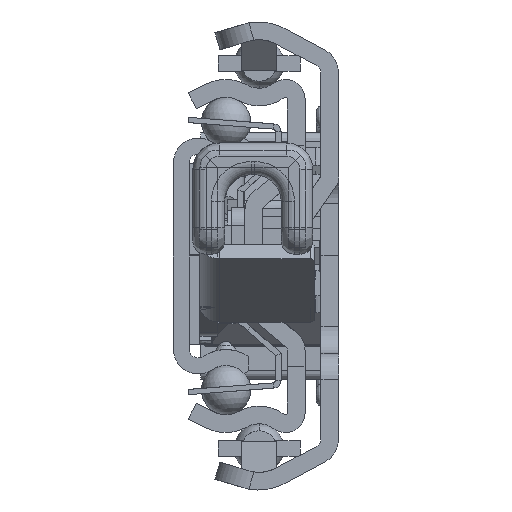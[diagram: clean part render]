
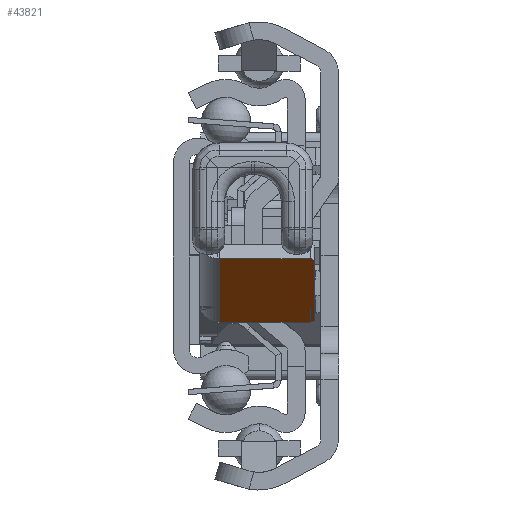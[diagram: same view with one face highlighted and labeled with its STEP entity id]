
A CAD part, left-side view. The second image highlights one B-rep face of the part: STEP entity #43821.
In plain terms, the highlighted planar face has unit normal (-0.597, 0, -0.802) as drawn and (-0.597, -0.802, 0) by its records, which use the part's own axes.
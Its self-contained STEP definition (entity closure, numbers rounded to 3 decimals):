
#43213=DIRECTION('',(0.802,-0.597,0.));
#43214=VECTOR('',#43213,12.);
#43215=CARTESIAN_POINT('',(31.957,-10.314,2.2));
#43216=LINE('',#43215,#43214);
#43241=CARTESIAN_POINT('',(41.184,-17.178,12.5));
#43242=DIRECTION('',(-0.597,-0.802,0.));
#43243=DIRECTION('',(0.802,-0.597,0.));
#43244=AXIS2_PLACEMENT_3D('',#43241,#43242,#43243);
#43246=DIRECTION('',(0.,0.,1.));
#43247=VECTOR('',#43246,10.3);
#43248=CARTESIAN_POINT('',(41.586,-17.476,2.2));
#43249=LINE('',#43248,#43247);
#43250=DIRECTION('',(0.,0.,-1.));
#43251=VECTOR('',#43250,10.3);
#43252=CARTESIAN_POINT('',(31.957,-10.314,12.5));
#43253=LINE('',#43252,#43251);
#43254=CARTESIAN_POINT('',(32.358,-10.613,12.5));
#43255=DIRECTION('',(-0.597,-0.802,0.));
#43256=DIRECTION('',(0.,0.,1.));
#43257=AXIS2_PLACEMENT_3D('',#43254,#43255,#43256);
#43259=DIRECTION('',(-0.802,0.597,0.));
#43260=VECTOR('',#43259,11.);
#43261=CARTESIAN_POINT('',(41.184,-17.178,13.));
#43262=LINE('',#43261,#43260);
#43475=CARTESIAN_POINT('',(31.957,-10.314,2.2));
#43476=CARTESIAN_POINT('',(41.586,-17.476,2.2));
#43477=VERTEX_POINT('',#43475);
#43478=VERTEX_POINT('',#43476);
#43507=CARTESIAN_POINT('',(41.586,-17.476,12.5));
#43508=CARTESIAN_POINT('',(41.184,-17.178,13.));
#43509=VERTEX_POINT('',#43507);
#43510=VERTEX_POINT('',#43508);
#43515=CARTESIAN_POINT('',(32.358,-10.613,13.));
#43516=CARTESIAN_POINT('',(31.957,-10.314,12.5));
#43517=VERTEX_POINT('',#43515);
#43518=VERTEX_POINT('',#43516);
#43803=CARTESIAN_POINT('',(34.726,-12.374,0.));
#43804=DIRECTION('',(-0.597,-0.802,0.));
#43805=DIRECTION('',(0.802,-0.597,0.));
#43806=AXIS2_PLACEMENT_3D('',#43803,#43804,#43805);
#43807=PLANE('',#43806);
#43809=ORIENTED_EDGE('',*,*,#43808,.F.);
#43811=ORIENTED_EDGE('',*,*,#43810,.F.);
#43812=ORIENTED_EDGE('',*,*,#43790,.F.);
#43814=ORIENTED_EDGE('',*,*,#43813,.F.);
#43816=ORIENTED_EDGE('',*,*,#43815,.F.);
#43818=ORIENTED_EDGE('',*,*,#43817,.F.);
#43819=EDGE_LOOP('',(#43809,#43811,#43812,#43814,#43816,#43818));
#43820=FACE_OUTER_BOUND('',#43819,.F.);
#43245=CIRCLE('',#43244,0.5);
#43258=CIRCLE('',#43257,0.5);
#43790=EDGE_CURVE('',#43477,#43478,#43216,.T.);
#43808=EDGE_CURVE('',#43509,#43510,#43245,.T.);
#43810=EDGE_CURVE('',#43478,#43509,#43249,.T.);
#43813=EDGE_CURVE('',#43518,#43477,#43253,.T.);
#43815=EDGE_CURVE('',#43517,#43518,#43258,.T.);
#43817=EDGE_CURVE('',#43510,#43517,#43262,.T.);
#43821=ADVANCED_FACE('',(#43820),#43807,.T.);
